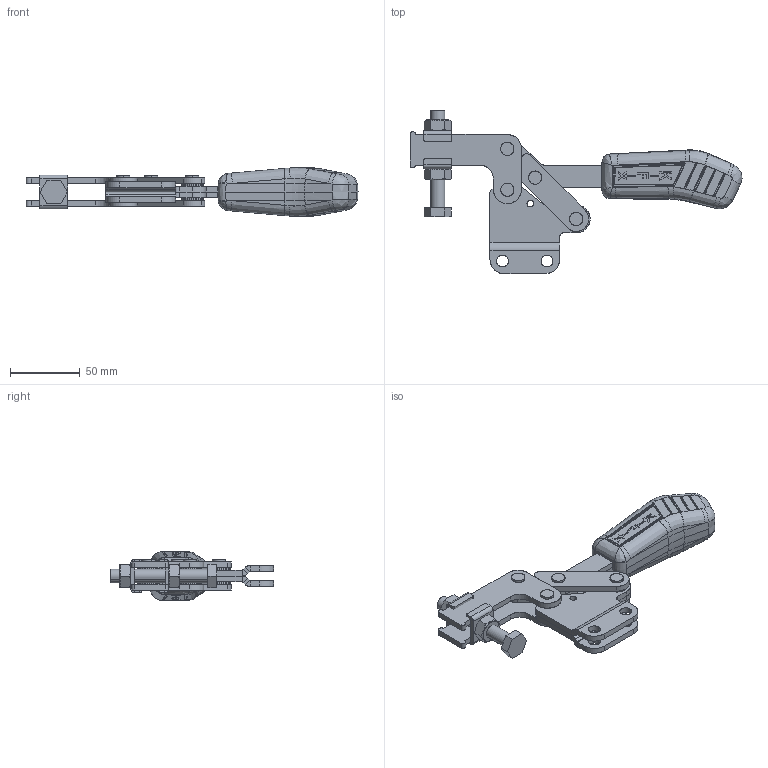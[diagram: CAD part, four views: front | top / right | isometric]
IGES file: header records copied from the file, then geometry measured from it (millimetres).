
Start section: SolidWorks IGES file using analytic representation for surfaces
Global section: file name: C:\Projetos\Grampos\KF-531\KF-531 RI\KF-531 RI.IGS; native system: SolidWorks 2013; preprocessor: SolidWorks 2013; author: Ricardo; date: 140818.114532; units: millimetre
Bounding box: 238.69 x 117.34 x 35.04 mm (x, y, z)
Surface area: 77024.7 mm2 (no closed solid volume)
Topology: 0 solids, 0 shells, 818 faces, 9488 edges, 9457 vertices
Faces by surface type: bspline 444, revolution 374
